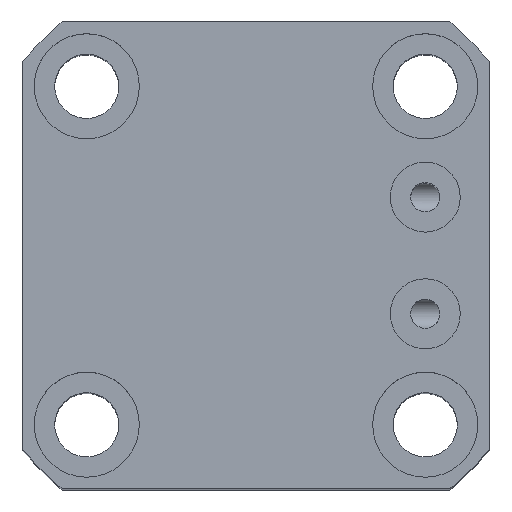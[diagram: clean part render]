
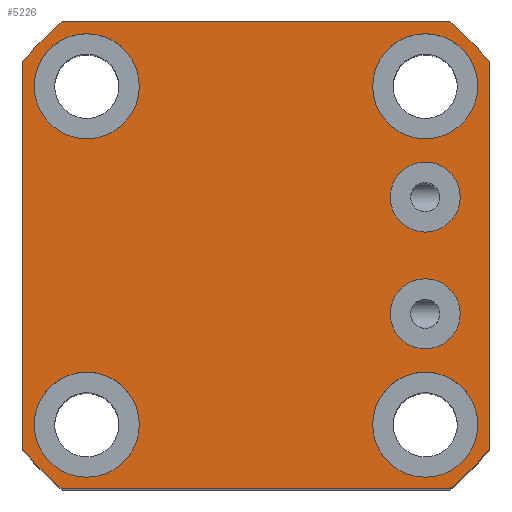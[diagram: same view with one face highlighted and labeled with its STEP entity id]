
A CAD part, top view. The second image highlights one B-rep face of the part: STEP entity #5226.
In plain terms, the highlighted planar face has unit normal (0, 0, 1).
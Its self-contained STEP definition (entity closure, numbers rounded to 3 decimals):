
#2619=PLANE('',#11738);
#3330=LINE('',#16480,#4147);
#3336=LINE('',#17179,#4153);
#3340=LINE('',#17191,#4157);
#3344=LINE('',#17203,#4161);
#4147=VECTOR('',#12249,1.);
#4153=VECTOR('',#12397,1.);
#4157=VECTOR('',#12409,1.);
#4161=VECTOR('',#12421,1.);
#5226=ADVANCED_FACE('',(#5884,#5885,#5886,#5887,#5888,#5889,#5890),#2619,
 .T.);
#5684=CIRCLE('',#11660,6.);
#5686=CIRCLE('',#11663,6.);
#5701=CIRCLE('',#11687,9.);
#5703=CIRCLE('',#11690,9.);
#5705=CIRCLE('',#11693,9.);
#5707=CIRCLE('',#11696,9.);
#5726=CIRCLE('',#11724,52.);
#5728=CIRCLE('',#11728,52.);
#5730=CIRCLE('',#11732,52.);
#5732=CIRCLE('',#11736,52.);
#5884=FACE_BOUND('',#6124,.T.);
#5885=FACE_BOUND('',#6125,.T.);
#5886=FACE_BOUND('',#6126,.T.);
#5887=FACE_BOUND('',#6127,.T.);
#5888=FACE_BOUND('',#6128,.T.);
#5889=FACE_BOUND('',#6129,.T.);
#5890=FACE_BOUND('',#6130,.T.);
#6124=EDGE_LOOP('',(#6901));
#6125=EDGE_LOOP('',(#6902));
#6126=EDGE_LOOP('',(#6903));
#6127=EDGE_LOOP('',(#6904));
#6128=EDGE_LOOP('',(#6905));
#6129=EDGE_LOOP('',(#6906));
#6130=EDGE_LOOP('',(#6907,#6908,#6909,#6910,#6911,#6912,#6913,#6914));
#6901=ORIENTED_EDGE('',*,*,#10065,.F.);
#6902=ORIENTED_EDGE('',*,*,#10067,.F.);
#6903=ORIENTED_EDGE('',*,*,#10123,.F.);
#6904=ORIENTED_EDGE('',*,*,#10125,.F.);
#6905=ORIENTED_EDGE('',*,*,#10127,.F.);
#6906=ORIENTED_EDGE('',*,*,#10129,.F.);
#6907=ORIENTED_EDGE('',*,*,#10149,.T.);
#6908=ORIENTED_EDGE('',*,*,#10152,.T.);
#6909=ORIENTED_EDGE('',*,*,#10155,.T.);
#6910=ORIENTED_EDGE('',*,*,#10158,.T.);
#6911=ORIENTED_EDGE('',*,*,#10161,.T.);
#6912=ORIENTED_EDGE('',*,*,#10164,.T.);
#6913=ORIENTED_EDGE('',*,*,#10166,.T.);
#6914=ORIENTED_EDGE('',*,*,#10053,.T.);
#9162=VERTEX_POINT('',#16479);
#9163=VERTEX_POINT('',#16481);
#9174=VERTEX_POINT('',#16531);
#9176=VERTEX_POINT('',#16536);
#9231=VERTEX_POINT('',#17110);
#9233=VERTEX_POINT('',#17115);
#9235=VERTEX_POINT('',#17120);
#9237=VERTEX_POINT('',#17125);
#9256=VERTEX_POINT('',#17172);
#9258=VERTEX_POINT('',#17178);
#9260=VERTEX_POINT('',#17184);
#9262=VERTEX_POINT('',#17190);
#9264=VERTEX_POINT('',#17196);
#9266=VERTEX_POINT('',#17202);
#10053=EDGE_CURVE('',#9163,#9162,#3330,.T.);
#10065=EDGE_CURVE('',#9174,#9174,#5684,.T.);
#10067=EDGE_CURVE('',#9176,#9176,#5686,.T.);
#10123=EDGE_CURVE('',#9231,#9231,#5701,.T.);
#10125=EDGE_CURVE('',#9233,#9233,#5703,.T.);
#10127=EDGE_CURVE('',#9235,#9235,#5705,.T.);
#10129=EDGE_CURVE('',#9237,#9237,#5707,.T.);
#10149=EDGE_CURVE('',#9162,#9256,#5726,.T.);
#10152=EDGE_CURVE('',#9256,#9258,#3336,.T.);
#10155=EDGE_CURVE('',#9258,#9260,#5728,.T.);
#10158=EDGE_CURVE('',#9260,#9262,#3340,.T.);
#10161=EDGE_CURVE('',#9262,#9264,#5730,.T.);
#10164=EDGE_CURVE('',#9264,#9266,#3344,.T.);
#10166=EDGE_CURVE('',#9266,#9163,#5732,.T.);
#11660=AXIS2_PLACEMENT_3D('',#16530,#12261,#12262);
#11663=AXIS2_PLACEMENT_3D('',#16535,#12267,#12268);
#11687=AXIS2_PLACEMENT_3D('',#17109,#12316,#12317);
#11690=AXIS2_PLACEMENT_3D('',#17114,#12322,#12323);
#11693=AXIS2_PLACEMENT_3D('',#17119,#12328,#12329);
#11696=AXIS2_PLACEMENT_3D('',#17124,#12334,#12335);
#11724=AXIS2_PLACEMENT_3D('',#17173,#12391,#12392);
#11728=AXIS2_PLACEMENT_3D('',#17185,#12403,#12404);
#11732=AXIS2_PLACEMENT_3D('',#17197,#12415,#12416);
#11736=AXIS2_PLACEMENT_3D('',#17206,#12426,#12427);
#11738=AXIS2_PLACEMENT_3D('',#17208,#12430,#12431);
#12249=DIRECTION('',(-1.,0.,0.));
#12261=DIRECTION('',(0.,0.,1.));
#12262=DIRECTION('',(1.,0.,0.));
#12267=DIRECTION('',(0.,0.,1.));
#12268=DIRECTION('',(1.,0.,0.));
#12316=DIRECTION('',(0.,0.,1.));
#12317=DIRECTION('',(1.,0.,0.));
#12322=DIRECTION('',(0.,0.,1.));
#12323=DIRECTION('',(1.,0.,0.));
#12328=DIRECTION('',(0.,0.,1.));
#12329=DIRECTION('',(1.,0.,0.));
#12334=DIRECTION('',(0.,0.,1.));
#12335=DIRECTION('',(1.,0.,0.));
#12391=DIRECTION('',(0.,0.,1.));
#12392=DIRECTION('',(1.,0.,0.));
#12397=DIRECTION('',(0.,-1.,0.));
#12403=DIRECTION('',(0.,0.,1.));
#12404=DIRECTION('',(1.,0.,0.));
#12409=DIRECTION('',(1.,0.,0.));
#12415=DIRECTION('',(0.,0.,1.));
#12416=DIRECTION('',(1.,0.,0.));
#12421=DIRECTION('',(0.,1.,0.));
#12426=DIRECTION('',(0.,0.,1.));
#12427=DIRECTION('',(1.,0.,0.));
#12430=DIRECTION('',(0.,0.,1.));
#12431=DIRECTION('',(-1.,0.,0.));
#16479=CARTESIAN_POINT('',(-33.226,40.,55.));
#16480=CARTESIAN_POINT('',(-33.226,40.,55.));
#16481=CARTESIAN_POINT('',(33.226,40.,55.));
#16530=CARTESIAN_POINT('',(29.,-10.,55.));
#16531=CARTESIAN_POINT('',(35.,-10.,55.));
#16535=CARTESIAN_POINT('',(29.,10.,55.));
#16536=CARTESIAN_POINT('',(35.,10.,55.));
#17109=CARTESIAN_POINT('',(29.,-29.,55.));
#17110=CARTESIAN_POINT('',(38.,-29.,55.));
#17114=CARTESIAN_POINT('',(-29.,-29.,55.));
#17115=CARTESIAN_POINT('',(-20.,-29.,55.));
#17119=CARTESIAN_POINT('',(-29.,29.,55.));
#17120=CARTESIAN_POINT('',(-20.,29.,55.));
#17124=CARTESIAN_POINT('',(29.,29.,55.));
#17125=CARTESIAN_POINT('',(38.,29.,55.));
#17172=CARTESIAN_POINT('',(-40.,33.226,55.));
#17173=CARTESIAN_POINT('',(0.,0.,55.));
#17178=CARTESIAN_POINT('',(-40.,-33.226,55.));
#17179=CARTESIAN_POINT('',(-40.,33.226,55.));
#17184=CARTESIAN_POINT('',(-33.226,-40.,55.));
#17185=CARTESIAN_POINT('',(0.,0.,55.));
#17190=CARTESIAN_POINT('',(33.226,-40.,55.));
#17191=CARTESIAN_POINT('',(-33.226,-40.,55.));
#17196=CARTESIAN_POINT('',(40.,-33.226,55.));
#17197=CARTESIAN_POINT('',(0.,0.,55.));
#17202=CARTESIAN_POINT('',(40.,33.226,55.));
#17203=CARTESIAN_POINT('',(40.,33.226,55.));
#17206=CARTESIAN_POINT('',(0.,0.,55.));
#17208=CARTESIAN_POINT('',(0.,0.,55.));
